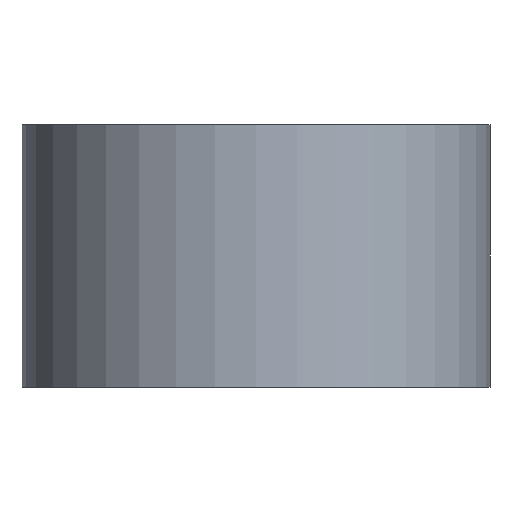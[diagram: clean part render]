
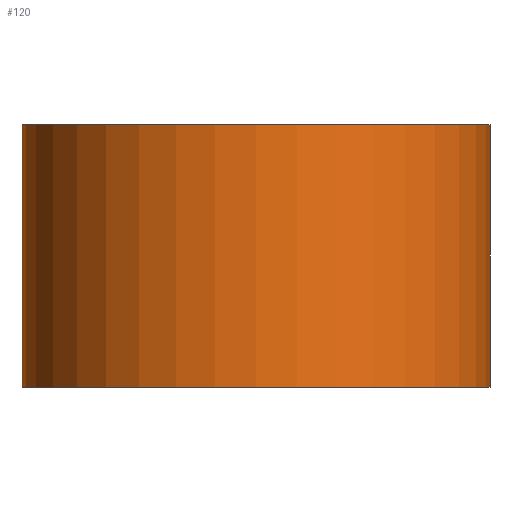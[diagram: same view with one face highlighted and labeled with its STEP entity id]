
A CAD part, front view. The second image highlights one B-rep face of the part: STEP entity #120.
In plain terms, the highlighted cylindrical face has radius 122 mm (diameter 244 mm), a partial arc.
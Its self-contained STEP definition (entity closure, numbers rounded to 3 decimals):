
#64=CARTESIAN_POINT('Axis2P3D Location',(0.,0.,68.5)) ;
#69=CARTESIAN_POINT('Line Origine',(122.,0.,68.5)) ;
#73=CARTESIAN_POINT('Vertex',(122.,0.,0.)) ;
#75=CARTESIAN_POINT('Vertex',(122.,0.,137.)) ;
#82=CARTESIAN_POINT('Vertex',(-122.,0.,0.)) ;
#85=CARTESIAN_POINT('Line Origine',(-122.,0.,68.5)) ;
#89=CARTESIAN_POINT('Vertex',(-122.,0.,137.)) ;
#104=CARTESIAN_POINT('Axis2P3D Location',(0.,0.,0.)) ;
#109=CARTESIAN_POINT('Axis2P3D Location',(0.,0.,137.)) ;
#65=DIRECTION('Axis2P3D Direction',(0.,0.,1.)) ;
#66=DIRECTION('Axis2P3D XDirection',(1.,0.,0.)) ;
#70=DIRECTION('Vector Direction',(0.,0.,1.)) ;
#86=DIRECTION('Vector Direction',(0.,0.,1.)) ;
#105=DIRECTION('Axis2P3D Direction',(0.,0.,1.)) ;
#110=DIRECTION('Axis2P3D Direction',(0.,0.,1.)) ;
#67=AXIS2_PLACEMENT_3D('Cylinder Axis2P3D',#64,#65,#66) ;
#106=AXIS2_PLACEMENT_3D('Circle Axis2P3D',#104,#105,$) ;
#111=AXIS2_PLACEMENT_3D('Circle Axis2P3D',#109,#110,$) ;
#115=ORIENTED_EDGE('',*,*,#91,.F.) ;
#116=ORIENTED_EDGE('',*,*,#108,.T.) ;
#117=ORIENTED_EDGE('',*,*,#77,.T.) ;
#118=ORIENTED_EDGE('',*,*,#113,.F.) ;
#71=VECTOR('Line Direction',#70,1.) ;
#87=VECTOR('Line Direction',#86,1.) ;
#120=ADVANCED_FACE('PartBody',(#119),#68,.T.) ;
#107=CIRCLE('generated circle',#106,122.) ;
#112=CIRCLE('generated circle',#111,122.) ;
#68=CYLINDRICAL_SURFACE('generated cylinder',#67,122.) ;
#77=EDGE_CURVE('',#74,#76,#72,.T.) ;
#91=EDGE_CURVE('',#83,#90,#88,.T.) ;
#108=EDGE_CURVE('',#83,#74,#107,.T.) ;
#113=EDGE_CURVE('',#90,#76,#112,.T.) ;
#114=EDGE_LOOP('',(#115,#116,#117,#118)) ;
#119=FACE_OUTER_BOUND('',#114,.T.) ;
#72=LINE('Line',#69,#71) ;
#88=LINE('Line',#85,#87) ;
#74=VERTEX_POINT('',#73) ;
#76=VERTEX_POINT('',#75) ;
#83=VERTEX_POINT('',#82) ;
#90=VERTEX_POINT('',#89) ;
